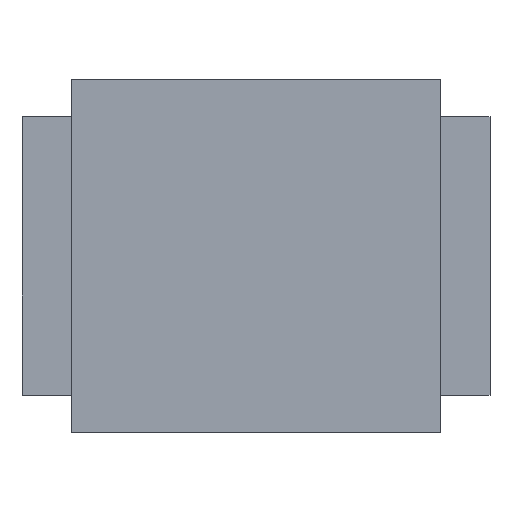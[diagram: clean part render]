
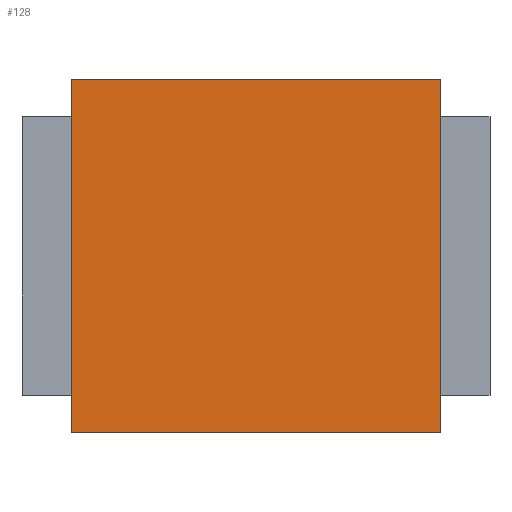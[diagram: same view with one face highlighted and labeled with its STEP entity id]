
A CAD part, top view. The second image highlights one B-rep face of the part: STEP entity #128.
In plain terms, the highlighted planar face has unit normal (0, 0, 1).
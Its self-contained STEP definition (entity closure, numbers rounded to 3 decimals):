
#128=ADVANCED_FACE('',(#440),#442,.T.);
#440=FACE_BOUND('',#441,.T.);
#441=EDGE_LOOP('',(#860,#861,#862,#863));
#442=PLANE('',#443);
#443=AXIS2_PLACEMENT_3D('',#444,#445,#446);
#444=CARTESIAN_POINT('',(0.,0.,0.85));
#445=DIRECTION('',(0.,0.,1.));
#446=DIRECTION('',(-1.,0.,0.));
#860=ORIENTED_EDGE('',*,*,#1167,.T.);
#861=ORIENTED_EDGE('',*,*,#1181,.T.);
#862=ORIENTED_EDGE('',*,*,#1175,.T.);
#863=ORIENTED_EDGE('',*,*,#1182,.T.);
#1167=EDGE_CURVE('',#1364,#1362,#1365,.F.);
#1175=EDGE_CURVE('',#1380,#1378,#1381,.F.);
#1181=EDGE_CURVE('',#1362,#1380,#1391,.T.);
#1182=EDGE_CURVE('',#1378,#1364,#1392,.T.);
#1362=VERTEX_POINT('',#1567);
#1364=VERTEX_POINT('',#1571);
#1365=LINE('',#1572,#1573);
#1378=VERTEX_POINT('',#1599);
#1380=VERTEX_POINT('',#1603);
#1381=LINE('',#1604,#1605);
#1391=LINE('',#1626,#1627);
#1392=LINE('',#1629,#1630);
#1567=CARTESIAN_POINT('',(-0.902,-0.865,0.85));
#1571=CARTESIAN_POINT('',(-0.902,0.865,0.85));
#1572=CARTESIAN_POINT('',(-0.902,-0.865,0.85));
#1573=VECTOR('',#1574,1.);
#1574=DIRECTION('',(0.,1.,0.));
#1599=CARTESIAN_POINT('',(0.902,0.865,0.85));
#1603=CARTESIAN_POINT('',(0.902,-0.865,0.85));
#1604=CARTESIAN_POINT('',(0.902,0.865,0.85));
#1605=VECTOR('',#1606,1.);
#1606=DIRECTION('',(0.,-1.,0.));
#1626=CARTESIAN_POINT('',(-0.902,-0.865,0.85));
#1627=VECTOR('',#1628,1.);
#1628=DIRECTION('',(1.,0.,0.));
#1629=CARTESIAN_POINT('',(0.902,0.865,0.85));
#1630=VECTOR('',#1631,1.);
#1631=DIRECTION('',(-1.,0.,0.));
